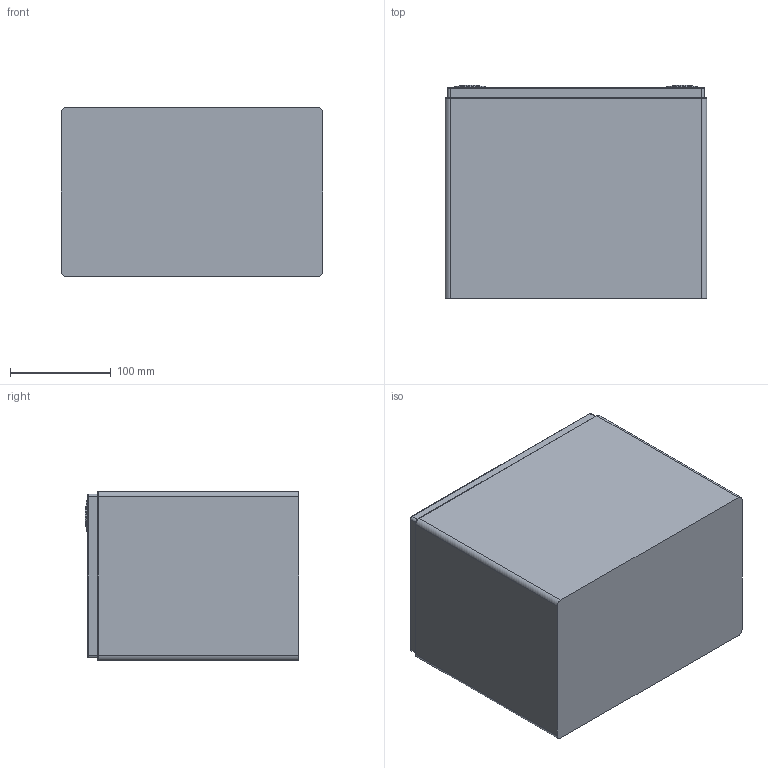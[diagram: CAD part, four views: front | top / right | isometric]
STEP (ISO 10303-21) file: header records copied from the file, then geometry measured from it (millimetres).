
FILE_DESCRIPTION (( 'STEP AP214' ), '1' );
FILE_NAME ('100Ah Final.STEP', '2016-11-22T18:01:13', ( '' ), ( '' ), 'SwSTEP 2.0', 'SolidWorks 2016', '' );
FILE_SCHEMA (( 'AUTOMOTIVE_DESIGN' ));
Length unit declared in the file: millimetre
Products named in the file (1): 100Ah Final
Bounding box: 260 x 212 x 168 mm (x, y, z)
Volume: 9148927.1 mm3; surface area: 264680.2 mm2
Topology: 1 solids, 1 shells, 53 faces, 116 edges, 72 vertices
Faces by surface type: cylinder 24, plane 17, torus 12
Entity records: 1636 total; most frequent: DIRECTION 292, CARTESIAN_POINT 242, ORIENTED_EDGE 232, AXIS2_PLACEMENT_3D 122, EDGE_CURVE 116, VERTEX_POINT 72, CIRCLE 68, EDGE_LOOP 60
